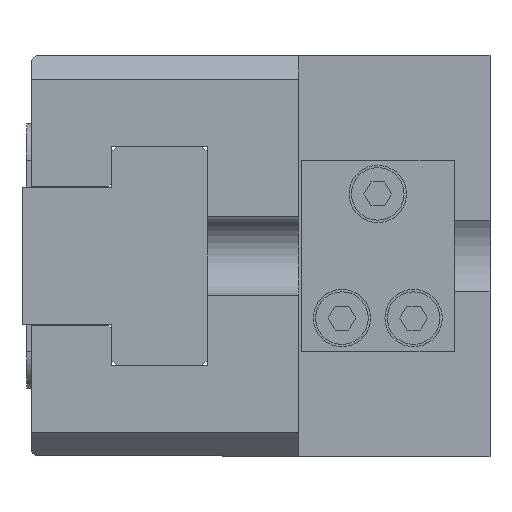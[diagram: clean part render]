
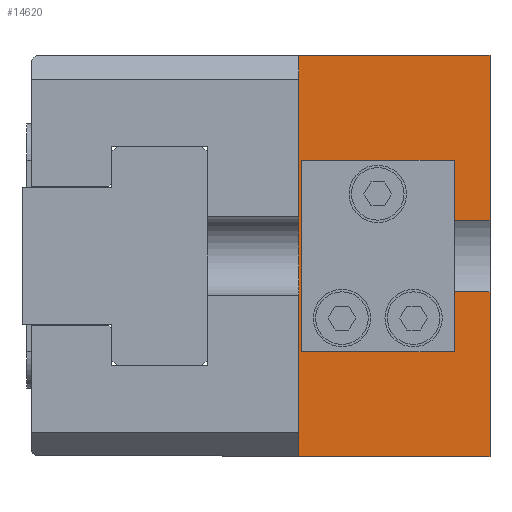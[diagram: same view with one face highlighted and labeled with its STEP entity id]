
A CAD part, left-side view. The second image highlights one B-rep face of the part: STEP entity #14620.
In plain terms, the highlighted planar face has unit normal (-1, 0, 0).
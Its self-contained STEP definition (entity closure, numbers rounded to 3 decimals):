
#457 = EDGE_CURVE ( 'NONE', #9413, #16317, #15307, .T. ) ;
#666 = DIRECTION ( 'NONE',  ( 1., 0., 0. ) ) ;
#806 = DIRECTION ( 'NONE',  ( 0., -1., 0. ) ) ;
#952 = LINE ( 'NONE', #13821, #14882 ) ;
#1091 = VERTEX_POINT ( 'NONE', #3097 ) ;
#1464 = CARTESIAN_POINT ( 'NONE',  ( -31.5, 3.75, 21. ) ) ;
#1789 = ORIENTED_EDGE ( 'NONE', *, *, #16689, .T. ) ;
#1924 = LINE ( 'NONE', #1464, #8646 ) ;
#2039 = CIRCLE ( 'NONE', #7356, 1.229 ) ;
#2102 = ORIENTED_EDGE ( 'NONE', *, *, #16915, .T. ) ;
#2183 = ORIENTED_EDGE ( 'NONE', *, *, #10120, .T. ) ;
#2227 = VECTOR ( 'NONE', #17139, 1000. ) ;
#2232 = VERTEX_POINT ( 'NONE', #12222 ) ;
#2257 = EDGE_CURVE ( 'NONE', #10783, #8561, #7018, .T. ) ;
#2468 = EDGE_LOOP ( 'NONE', ( #12601, #2102 ) ) ;
#3059 = VERTEX_POINT ( 'NONE', #14704 ) ;
#3097 = CARTESIAN_POINT ( 'NONE',  ( -31.5, 0., 3.75 ) ) ;
#3246 = CARTESIAN_POINT ( 'NONE',  ( -31.5, 20., -21. ) ) ;
#3297 = ORIENTED_EDGE ( 'NONE', *, *, #17104, .T. ) ;
#3565 = EDGE_CURVE ( 'NONE', #2232, #13250, #1924, .T. ) ;
#3742 = LINE ( 'NONE', #7519, #17210 ) ;
#4199 = DIRECTION ( 'NONE',  ( 0., 0., 1. ) ) ;
#4238 = CARTESIAN_POINT ( 'NONE',  ( -31.5, 0., -3.75 ) ) ;
#4424 = DIRECTION ( 'NONE',  ( 0., 1., 0. ) ) ;
#4458 = CARTESIAN_POINT ( 'NONE',  ( -31.5, 0., -21. ) ) ;
#4911 = DIRECTION ( 'NONE',  ( 1., 0., 0. ) ) ;
#4999 = LINE ( 'NONE', #6939, #11708 ) ;
#5006 = LINE ( 'NONE', #5938, #15322 ) ;
#5057 = ORIENTED_EDGE ( 'NONE', *, *, #16971, .T. ) ;
#5147 = ORIENTED_EDGE ( 'NONE', *, *, #6803, .T. ) ;
#5477 = AXIS2_PLACEMENT_3D ( 'NONE', #6942, #16355, #8275 ) ;
#5670 = ORIENTED_EDGE ( 'NONE', *, *, #16371, .T. ) ;
#5829 = LINE ( 'NONE', #9074, #2227 ) ;
#5910 = VERTEX_POINT ( 'NONE', #3246 ) ;
#5938 = CARTESIAN_POINT ( 'NONE',  ( -31.5, 20., 21. ) ) ;
#6107 = EDGE_LOOP ( 'NONE', ( #2183, #8610 ) ) ;
#6184 = FACE_OUTER_BOUND ( 'NONE', #13225, .T. ) ;
#6421 = CARTESIAN_POINT ( 'NONE',  ( -31.5, 20., 21. ) ) ;
#6801 = DIRECTION ( 'NONE',  ( 0., 0., 1. ) ) ;
#6803 = EDGE_CURVE ( 'NONE', #3059, #13484, #952, .T. ) ;
#6939 = CARTESIAN_POINT ( 'NONE',  ( -31.5, 0., 21. ) ) ;
#6942 = CARTESIAN_POINT ( 'NONE',  ( -31.5, 8., -6.5 ) ) ;
#7018 = CIRCLE ( 'NONE', #5477, 1.229 ) ;
#7268 = DIRECTION ( 'NONE',  ( 0., 0., 1. ) ) ;
#7326 = CARTESIAN_POINT ( 'NONE',  ( -31.5, 15.5, -6.5 ) ) ;
#7352 = CARTESIAN_POINT ( 'NONE',  ( -31.5, 15.5, -7.73 ) ) ;
#7356 = AXIS2_PLACEMENT_3D ( 'NONE', #7326, #16744, #8673 ) ;
#7436 = CARTESIAN_POINT ( 'NONE',  ( -31.5, 0., 3.75 ) ) ;
#7499 = AXIS2_PLACEMENT_3D ( 'NONE', #8727, #666, #10086 ) ;
#7519 = CARTESIAN_POINT ( 'NONE',  ( -31.5, 0., -21. ) ) ;
#7932 = VERTEX_POINT ( 'NONE', #11840 ) ;
#7998 = CIRCLE ( 'NONE', #7499, 1.229 ) ;
#8271 = DIRECTION ( 'NONE',  ( 0., 0., 1. ) ) ;
#8275 = DIRECTION ( 'NONE',  ( 0., 0., 1. ) ) ;
#8561 = VERTEX_POINT ( 'NONE', #13455 ) ;
#8610 = ORIENTED_EDGE ( 'NONE', *, *, #2257, .T. ) ;
#8646 = VECTOR ( 'NONE', #6801, 1000. ) ;
#8673 = DIRECTION ( 'NONE',  ( 0., 0., 1. ) ) ;
#8704 = CARTESIAN_POINT ( 'NONE',  ( -31.5, 15.5, -5.271 ) ) ;
#8727 = CARTESIAN_POINT ( 'NONE',  ( -31.5, 8., -6.5 ) ) ;
#9074 = CARTESIAN_POINT ( 'NONE',  ( -31.5, 0., 21. ) ) ;
#9413 = VERTEX_POINT ( 'NONE', #8704 ) ;
#9749 = FACE_BOUND ( 'NONE', #2468, .T. ) ;
#10086 = DIRECTION ( 'NONE',  ( 0., 0., 1. ) ) ;
#10120 = EDGE_CURVE ( 'NONE', #8561, #10783, #7998, .T. ) ;
#10342 = VERTEX_POINT ( 'NONE', #4458 ) ;
#10783 = VERTEX_POINT ( 'NONE', #13489 ) ;
#11079 = LINE ( 'NONE', #7436, #14668 ) ;
#11708 = VECTOR ( 'NONE', #8271, 1000. ) ;
#11840 = CARTESIAN_POINT ( 'NONE',  ( -31.5, 0., -3.75 ) ) ;
#11993 = AXIS2_PLACEMENT_3D ( 'NONE', #12927, #4911, #14306 ) ;
#12222 = CARTESIAN_POINT ( 'NONE',  ( -31.5, 3.75, -3.75 ) ) ;
#12239 = DIRECTION ( 'NONE',  ( -1., 0., 0. ) ) ;
#12601 = ORIENTED_EDGE ( 'NONE', *, *, #457, .T. ) ;
#12630 = EDGE_CURVE ( 'NONE', #5910, #13484, #5006, .T. ) ;
#12927 = CARTESIAN_POINT ( 'NONE',  ( -31.5, 15.5, -6.5 ) ) ;
#12976 = VECTOR ( 'NONE', #13644, 1000. ) ;
#13225 = EDGE_LOOP ( 'NONE', ( #16728, #5670, #3297, #1789, #14262, #5057, #16784, #5147 ) ) ;
#13250 = VERTEX_POINT ( 'NONE', #15395 ) ;
#13455 = CARTESIAN_POINT ( 'NONE',  ( -31.5, 8., -5.271 ) ) ;
#13484 = VERTEX_POINT ( 'NONE', #6421 ) ;
#13489 = CARTESIAN_POINT ( 'NONE',  ( -31.5, 8., -7.73 ) ) ;
#13644 = DIRECTION ( 'NONE',  ( 0., 1., 0. ) ) ;
#13821 = CARTESIAN_POINT ( 'NONE',  ( -31.5, 48., 21. ) ) ;
#14262 = ORIENTED_EDGE ( 'NONE', *, *, #3565, .T. ) ;
#14306 = DIRECTION ( 'NONE',  ( 0., 0., 1. ) ) ;
#14620 = ADVANCED_FACE ( 'NONE', ( #6184, #16903, #9749 ), #16260, .T. ) ;
#14668 = VECTOR ( 'NONE', #15522, 1000. ) ;
#14704 = CARTESIAN_POINT ( 'NONE',  ( -31.5, 0., 21. ) ) ;
#14848 = CARTESIAN_POINT ( 'NONE',  ( -31.5, 0., 21. ) ) ;
#14882 = VECTOR ( 'NONE', #4424, 1000. ) ;
#15307 = CIRCLE ( 'NONE', #11993, 1.229 ) ;
#15322 = VECTOR ( 'NONE', #7268, 1000. ) ;
#15392 = AXIS2_PLACEMENT_3D ( 'NONE', #14848, #12239, #4199 ) ;
#15395 = CARTESIAN_POINT ( 'NONE',  ( -31.5, 3.75, 3.75 ) ) ;
#15522 = DIRECTION ( 'NONE',  ( 0., -1., 0. ) ) ;
#15743 = LINE ( 'NONE', #4238, #12976 ) ;
#16260 = PLANE ( 'NONE',  #15392 ) ;
#16317 = VERTEX_POINT ( 'NONE', #7352 ) ;
#16355 = DIRECTION ( 'NONE',  ( 1., 0., 0. ) ) ;
#16371 = EDGE_CURVE ( 'NONE', #5910, #10342, #3742, .T. ) ;
#16689 = EDGE_CURVE ( 'NONE', #7932, #2232, #15743, .T. ) ;
#16695 = EDGE_CURVE ( 'NONE', #1091, #3059, #4999, .T. ) ;
#16728 = ORIENTED_EDGE ( 'NONE', *, *, #12630, .F. ) ;
#16744 = DIRECTION ( 'NONE',  ( 1., 0., 0. ) ) ;
#16784 = ORIENTED_EDGE ( 'NONE', *, *, #16695, .T. ) ;
#16903 = FACE_BOUND ( 'NONE', #6107, .T. ) ;
#16915 = EDGE_CURVE ( 'NONE', #16317, #9413, #2039, .T. ) ;
#16971 = EDGE_CURVE ( 'NONE', #13250, #1091, #11079, .T. ) ;
#17104 = EDGE_CURVE ( 'NONE', #10342, #7932, #5829, .T. ) ;
#17139 = DIRECTION ( 'NONE',  ( 0., 0., 1. ) ) ;
#17210 = VECTOR ( 'NONE', #806, 1000. ) ;
